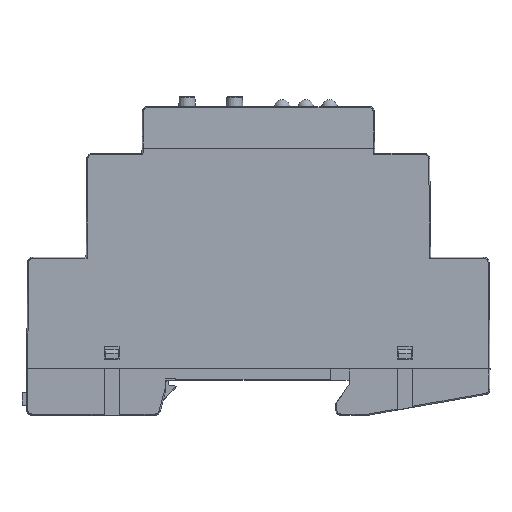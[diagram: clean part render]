
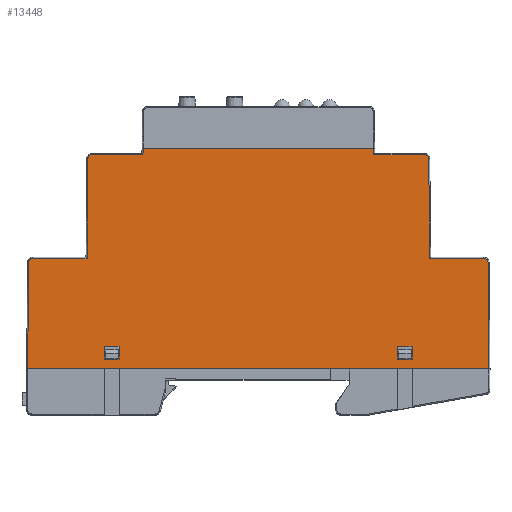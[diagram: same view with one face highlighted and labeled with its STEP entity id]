
A CAD part, top view. The second image highlights one B-rep face of the part: STEP entity #13448.
In plain terms, the highlighted planar face has unit normal (0, 0, 1).
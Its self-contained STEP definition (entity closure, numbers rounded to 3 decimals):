
#108=FACE_BOUND('',#2582,.T.);
#109=FACE_BOUND('',#2583,.T.);
#1185=PLANE('',#14502);
#1827=FACE_OUTER_BOUND('',#2581,.T.);
#2581=EDGE_LOOP('',(#11138,#11139,#11140,#11141,#11142,#11143,#11144,#11145,
#11146,#11147,#11148,#11149,#11150,#11151,#11152,#11153,#11154));
#2582=EDGE_LOOP('',(#11155,#11156,#11157,#11158));
#2583=EDGE_LOOP('',(#11159,#11160,#11161,#11162));
#2912=LINE('',#18728,#4280);
#2941=LINE('',#18821,#4309);
#2942=LINE('',#18824,#4310);
#2944=LINE('',#18836,#4312);
#2946=LINE('',#18842,#4314);
#3285=LINE('',#19902,#4653);
#3287=LINE('',#19908,#4655);
#3288=LINE('',#19917,#4656);
#3290=LINE('',#19925,#4658);
#3622=LINE('',#20989,#4990);
#3623=LINE('',#20993,#4991);
#3624=LINE('',#20994,#4992);
#3625=LINE('',#20995,#4993);
#3626=LINE('',#20998,#4994);
#3627=LINE('',#21000,#4995);
#3628=LINE('',#21002,#4996);
#3629=LINE('',#21003,#4997);
#3630=LINE('',#21006,#4998);
#3631=LINE('',#21008,#4999);
#3632=LINE('',#21010,#5000);
#3633=LINE('',#21011,#5001);
#4280=VECTOR('',#14985,10.);
#4309=VECTOR('',#15074,10.);
#4310=VECTOR('',#15077,10.);
#4312=VECTOR('',#15091,10.);
#4314=VECTOR('',#15097,10.);
#4653=VECTOR('',#16092,10.);
#4655=VECTOR('',#16098,10.);
#4656=VECTOR('',#16109,10.);
#4658=VECTOR('',#16117,10.);
#4990=VECTOR('',#17129,10.);
#4991=VECTOR('',#17134,10.);
#4992=VECTOR('',#17135,10.);
#4993=VECTOR('',#17136,10.);
#4994=VECTOR('',#17137,10.);
#4995=VECTOR('',#17138,10.);
#4996=VECTOR('',#17139,10.);
#4997=VECTOR('',#17140,10.);
#4998=VECTOR('',#17141,10.);
#4999=VECTOR('',#17142,10.);
#5000=VECTOR('',#17143,10.);
#5001=VECTOR('',#17144,10.);
#5663=CIRCLE('',#13818,0.8);
#5666=CIRCLE('',#13825,0.8);
#5779=CIRCLE('',#14148,0.8);
#5783=CIRCLE('',#14156,0.8);
#6045=VERTEX_POINT('',#18724);
#6047=VERTEX_POINT('',#18727);
#6079=VERTEX_POINT('',#18815);
#6081=VERTEX_POINT('',#18819);
#6082=VERTEX_POINT('',#18823);
#6085=VERTEX_POINT('',#18830);
#6086=VERTEX_POINT('',#18835);
#6088=VERTEX_POINT('',#18841);
#6388=VERTEX_POINT('',#19892);
#6389=VERTEX_POINT('',#19894);
#6391=VERTEX_POINT('',#19900);
#6393=VERTEX_POINT('',#19906);
#6395=VERTEX_POINT('',#19912);
#6396=VERTEX_POINT('',#19916);
#6398=VERTEX_POINT('',#19922);
#6701=VERTEX_POINT('',#20988);
#6702=VERTEX_POINT('',#20992);
#6703=VERTEX_POINT('',#20996);
#6704=VERTEX_POINT('',#20997);
#6705=VERTEX_POINT('',#20999);
#6706=VERTEX_POINT('',#21001);
#6707=VERTEX_POINT('',#21004);
#6708=VERTEX_POINT('',#21005);
#6709=VERTEX_POINT('',#21007);
#6710=VERTEX_POINT('',#21009);
#7230=EDGE_CURVE('',#6045,#6047,#2912,.T.);
#7277=EDGE_CURVE('',#6081,#6079,#2941,.T.);
#7278=EDGE_CURVE('',#6082,#6081,#2942,.T.);
#7282=EDGE_CURVE('',#6085,#6082,#5663,.T.);
#7284=EDGE_CURVE('',#6086,#6085,#2944,.T.);
#7287=EDGE_CURVE('',#6088,#6086,#2946,.T.);
#7290=EDGE_CURVE('',#6047,#6088,#5666,.T.);
#7773=EDGE_CURVE('',#6389,#6388,#5779,.T.);
#7776=EDGE_CURVE('',#6391,#6389,#3285,.T.);
#7779=EDGE_CURVE('',#6393,#6391,#3287,.T.);
#7782=EDGE_CURVE('',#6395,#6393,#5783,.T.);
#7783=EDGE_CURVE('',#6396,#6395,#3288,.T.);
#7787=EDGE_CURVE('',#6398,#6396,#3290,.T.);
#8276=EDGE_CURVE('',#6388,#6701,#3622,.T.);
#8278=EDGE_CURVE('',#6702,#6045,#3623,.T.);
#8279=EDGE_CURVE('',#6701,#6702,#3624,.T.);
#8280=EDGE_CURVE('',#6398,#6079,#3625,.T.);
#8281=EDGE_CURVE('',#6703,#6704,#3626,.T.);
#8282=EDGE_CURVE('',#6704,#6705,#3627,.T.);
#8283=EDGE_CURVE('',#6705,#6706,#3628,.T.);
#8284=EDGE_CURVE('',#6706,#6703,#3629,.T.);
#8285=EDGE_CURVE('',#6707,#6708,#3630,.T.);
#8286=EDGE_CURVE('',#6708,#6709,#3631,.T.);
#8287=EDGE_CURVE('',#6709,#6710,#3632,.T.);
#8288=EDGE_CURVE('',#6710,#6707,#3633,.T.);
#11138=ORIENTED_EDGE('',*,*,#8278,.F.);
#11139=ORIENTED_EDGE('',*,*,#8279,.F.);
#11140=ORIENTED_EDGE('',*,*,#8276,.F.);
#11141=ORIENTED_EDGE('',*,*,#7773,.F.);
#11142=ORIENTED_EDGE('',*,*,#7776,.F.);
#11143=ORIENTED_EDGE('',*,*,#7779,.F.);
#11144=ORIENTED_EDGE('',*,*,#7782,.F.);
#11145=ORIENTED_EDGE('',*,*,#7783,.F.);
#11146=ORIENTED_EDGE('',*,*,#7787,.F.);
#11147=ORIENTED_EDGE('',*,*,#8280,.T.);
#11148=ORIENTED_EDGE('',*,*,#7277,.F.);
#11149=ORIENTED_EDGE('',*,*,#7278,.F.);
#11150=ORIENTED_EDGE('',*,*,#7282,.F.);
#11151=ORIENTED_EDGE('',*,*,#7284,.F.);
#11152=ORIENTED_EDGE('',*,*,#7287,.F.);
#11153=ORIENTED_EDGE('',*,*,#7290,.F.);
#11154=ORIENTED_EDGE('',*,*,#7230,.F.);
#11155=ORIENTED_EDGE('',*,*,#8281,.T.);
#11156=ORIENTED_EDGE('',*,*,#8282,.T.);
#11157=ORIENTED_EDGE('',*,*,#8283,.T.);
#11158=ORIENTED_EDGE('',*,*,#8284,.T.);
#11159=ORIENTED_EDGE('',*,*,#8285,.T.);
#11160=ORIENTED_EDGE('',*,*,#8286,.T.);
#11161=ORIENTED_EDGE('',*,*,#8287,.T.);
#11162=ORIENTED_EDGE('',*,*,#8288,.T.);
#13448=ADVANCED_FACE('',(#1827,#108,#109),#1185,.T.);
#13818=AXIS2_PLACEMENT_3D('',#18832,#15085,#15086);
#13825=AXIS2_PLACEMENT_3D('',#18846,#15103,#15104);
#14148=AXIS2_PLACEMENT_3D('',#19896,#16085,#16086);
#14156=AXIS2_PLACEMENT_3D('',#19914,#16105,#16106);
#14502=AXIS2_PLACEMENT_3D('',#20991,#17132,#17133);
#14985=DIRECTION('',(0.009,1.,0.));
#15074=DIRECTION('',(0.009,1.,0.));
#15077=DIRECTION('',(1.,0.,0.));
#15085=DIRECTION('center_axis',(0.,0.,
-1.));
#15086=DIRECTION('ref_axis',(-0.704,0.71,0.));
#15091=DIRECTION('',(0.009,1.,0.));
#15097=DIRECTION('',(1.,0.,0.));
#15103=DIRECTION('center_axis',(0.,0.,
-1.));
#15104=DIRECTION('ref_axis',(-0.704,0.71,0.));
#16085=DIRECTION('center_axis',(0.,0.,
-1.));
#16086=DIRECTION('ref_axis',(0.704,0.71,0.));
#16092=DIRECTION('',(1.,0.,0.));
#16098=DIRECTION('',(0.009,-1.,0.));
#16105=DIRECTION('center_axis',(0.,0.,
-1.));
#16106=DIRECTION('ref_axis',(0.704,0.71,0.));
#16109=DIRECTION('',(1.,0.,0.));
#16117=DIRECTION('',(0.009,-1.,0.));
#17129=DIRECTION('',(0.009,-1.,0.));
#17132=DIRECTION('center_axis',(0.,0.,
1.));
#17133=DIRECTION('ref_axis',(1.,0.,0.));
#17134=DIRECTION('',(0.009,1.,0.));
#17135=DIRECTION('',(-1.,0.,0.));
#17136=DIRECTION('',(-1.,0.,0.));
#17137=DIRECTION('',(0.,-1.,0.));
#17138=DIRECTION('',(-1.,0.,0.));
#17139=DIRECTION('',(0.,1.,0.));
#17140=DIRECTION('',(1.,0.,0.));
#17141=DIRECTION('',(0.,1.,0.));
#17142=DIRECTION('',(1.,0.,0.));
#17143=DIRECTION('',(0.,-1.,0.));
#17144=DIRECTION('',(-1.,0.,0.));
#18724=CARTESIAN_POINT('',(-44.656,6.15,8.9));
#18727=CARTESIAN_POINT('',(-44.52,21.807,8.9));
#18728=CARTESIAN_POINT('',(-44.482,26.121,8.9));
#18815=CARTESIAN_POINT('',(-22.341,43.9,8.9));
#18819=CARTESIAN_POINT('',(-22.352,42.7,8.9));
#18821=CARTESIAN_POINT('',(-22.322,46.125,8.9));
#18823=CARTESIAN_POINT('',(-32.233,42.7,8.9));
#18824=CARTESIAN_POINT('',(-1.643,42.7,8.9));
#18830=CARTESIAN_POINT('',(-33.033,41.907,8.9));
#18832=CARTESIAN_POINT('Origin',(-32.233,41.9,8.9));
#18835=CARTESIAN_POINT('',(-33.202,22.6,8.9));
#18836=CARTESIAN_POINT('',(-33.084,36.122,8.9));
#18841=CARTESIAN_POINT('',(-43.72,22.6,8.9));
#18842=CARTESIAN_POINT('',(-7.068,22.6,8.9));
#18846=CARTESIAN_POINT('Origin',(-43.72,21.8,8.9));
#19892=CARTESIAN_POINT('',(44.52,21.807,8.9));
#19894=CARTESIAN_POINT('',(43.72,22.6,8.9));
#19896=CARTESIAN_POINT('Origin',(43.72,21.8,8.9));
#19900=CARTESIAN_POINT('',(33.202,22.6,8.9));
#19902=CARTESIAN_POINT('',(7.068,22.6,8.9));
#19906=CARTESIAN_POINT('',(33.033,41.907,8.9));
#19908=CARTESIAN_POINT('',(33.084,36.122,8.9));
#19912=CARTESIAN_POINT('',(32.233,42.7,8.9));
#19914=CARTESIAN_POINT('Origin',(32.233,41.9,8.9));
#19916=CARTESIAN_POINT('',(22.352,42.7,8.9));
#19917=CARTESIAN_POINT('',(1.643,42.7,8.9));
#19922=CARTESIAN_POINT('',(22.341,43.9,8.9));
#19925=CARTESIAN_POINT('',(22.322,46.125,8.9));
#20988=CARTESIAN_POINT('',(44.7,1.15,8.9));
#20989=CARTESIAN_POINT('',(44.482,26.121,8.9));
#20991=CARTESIAN_POINT('Origin',(19.263,28.888,8.9));
#20992=CARTESIAN_POINT('',(-44.7,1.15,8.9));
#20993=CARTESIAN_POINT('',(-44.482,26.121,8.9));
#20994=CARTESIAN_POINT('',(44.9,1.15,8.9));
#20995=CARTESIAN_POINT('',(-20.902,43.9,8.9));
#20996=CARTESIAN_POINT('',(29.8,5.55,8.9));
#20997=CARTESIAN_POINT('',(29.8,3.05,8.9));
#20998=CARTESIAN_POINT('',(29.8,15.969,8.9));
#20999=CARTESIAN_POINT('',(27.,3.05,8.9));
#21000=CARTESIAN_POINT('',(3.868,3.05,8.9));
#21001=CARTESIAN_POINT('',(27.,5.55,8.9));
#21002=CARTESIAN_POINT('',(27.,17.219,8.9));
#21003=CARTESIAN_POINT('',(5.268,5.55,8.9));
#21004=CARTESIAN_POINT('',(-29.8,3.05,8.9));
#21005=CARTESIAN_POINT('',(-29.8,5.55,8.9));
#21006=CARTESIAN_POINT('',(-29.8,15.969,8.9));
#21007=CARTESIAN_POINT('',(-27.,5.55,8.9));
#21008=CARTESIAN_POINT('',(-5.268,5.55,8.9));
#21009=CARTESIAN_POINT('',(-27.,3.05,8.9));
#21010=CARTESIAN_POINT('',(-27.,17.219,8.9));
#21011=CARTESIAN_POINT('',(-3.868,3.05,8.9));
